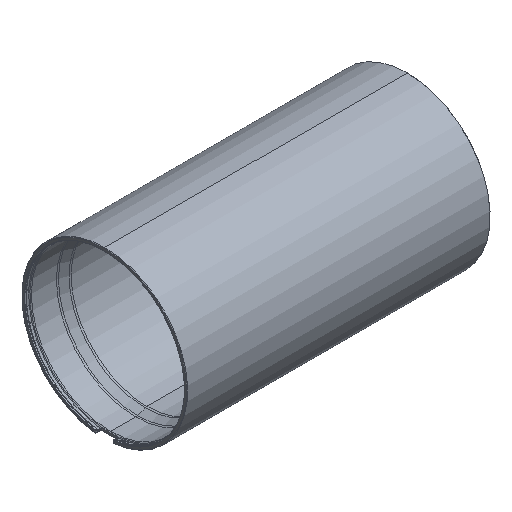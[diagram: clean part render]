
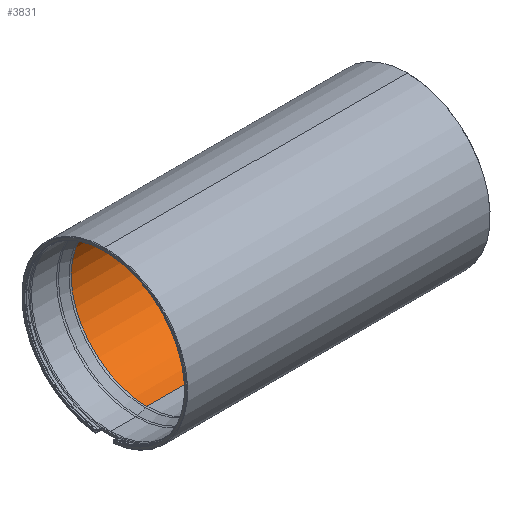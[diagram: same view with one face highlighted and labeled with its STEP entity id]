
A CAD part, isometric view. The second image highlights one B-rep face of the part: STEP entity #3831.
In plain terms, the highlighted cylindrical face has radius 75 mm (diameter 150 mm), a partial arc.
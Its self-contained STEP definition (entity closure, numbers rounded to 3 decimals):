
#177 = EDGE_CURVE ( 'NONE', #625, #4818, #6027, .T. ) ;
#204 = VECTOR ( 'NONE', #1258, 1000. ) ;
#585 = CIRCLE ( 'NONE', #4885, 75. ) ;
#625 = VERTEX_POINT ( 'NONE', #4097 ) ;
#724 = DIRECTION ( 'NONE',  ( -1., 0., 0. ) ) ;
#954 = DIRECTION ( 'NONE',  ( 0., 0., -1. ) ) ;
#1238 = ORIENTED_EDGE ( 'NONE', *, *, #177, .F. ) ;
#1258 = DIRECTION ( 'NONE',  ( -1., 0., 0. ) ) ;
#1263 = CIRCLE ( 'NONE', #3612, 75. ) ;
#1360 = DIRECTION ( 'NONE',  ( 1., 0., 0. ) ) ;
#1677 = DIRECTION ( 'NONE',  ( 0., 0., 1. ) ) ;
#1693 = CARTESIAN_POINT ( 'NONE',  ( -42.223, 0., 75. ) ) ;
#1717 = CARTESIAN_POINT ( 'NONE',  ( -76.2, 0., -75. ) ) ;
#2251 = AXIS2_PLACEMENT_3D ( 'NONE', #3575, #724, #1677 ) ;
#2378 = CARTESIAN_POINT ( 'NONE',  ( -257.777, 0., -75. ) ) ;
#2517 = VERTEX_POINT ( 'NONE', #1693 ) ;
#2582 = EDGE_LOOP ( 'NONE', ( #1238, #3579, #3067, #4599 ) ) ;
#2668 = DIRECTION ( 'NONE',  ( -1., 0., 0. ) ) ;
#2703 = CARTESIAN_POINT ( 'NONE',  ( -42.223, 0., 0. ) ) ;
#3067 = ORIENTED_EDGE ( 'NONE', *, *, #4556, .T. ) ;
#3362 = EDGE_CURVE ( 'NONE', #625, #2517, #1263, .T. ) ;
#3575 = CARTESIAN_POINT ( 'NONE',  ( -76.2, 0., 0. ) ) ;
#3579 = ORIENTED_EDGE ( 'NONE', *, *, #3362, .T. ) ;
#3586 = CARTESIAN_POINT ( 'NONE',  ( -76.2, 0., 75. ) ) ;
#3612 = AXIS2_PLACEMENT_3D ( 'NONE', #2703, #1360, #954 ) ;
#3621 = VECTOR ( 'NONE', #2668, 1000. ) ;
#3791 = EDGE_CURVE ( 'NONE', #5804, #4818, #585, .T. ) ;
#3831 = ADVANCED_FACE ( 'NONE', ( #4959 ), #5888, .F. ) ;
#4097 = CARTESIAN_POINT ( 'NONE',  ( -42.223, 0., -75. ) ) ;
#4556 = EDGE_CURVE ( 'NONE', #2517, #5804, #5430, .T. ) ;
#4599 = ORIENTED_EDGE ( 'NONE', *, *, #3791, .T. ) ;
#4818 = VERTEX_POINT ( 'NONE', #2378 ) ;
#4885 = AXIS2_PLACEMENT_3D ( 'NONE', #4895, #5920, #4991 ) ;
#4895 = CARTESIAN_POINT ( 'NONE',  ( -257.777, 0., 0. ) ) ;
#4959 = FACE_OUTER_BOUND ( 'NONE', #2582, .T. ) ;
#4991 = DIRECTION ( 'NONE',  ( 0., 0., -1. ) ) ;
#5166 = CARTESIAN_POINT ( 'NONE',  ( -257.777, 0., 75. ) ) ;
#5430 = LINE ( 'NONE', #3586, #3621 ) ;
#5804 = VERTEX_POINT ( 'NONE', #5166 ) ;
#5888 = CYLINDRICAL_SURFACE ( 'NONE', #2251, 75. ) ;
#5920 = DIRECTION ( 'NONE',  ( -1., 0., 0. ) ) ;
#6027 = LINE ( 'NONE', #1717, #204 ) ;
